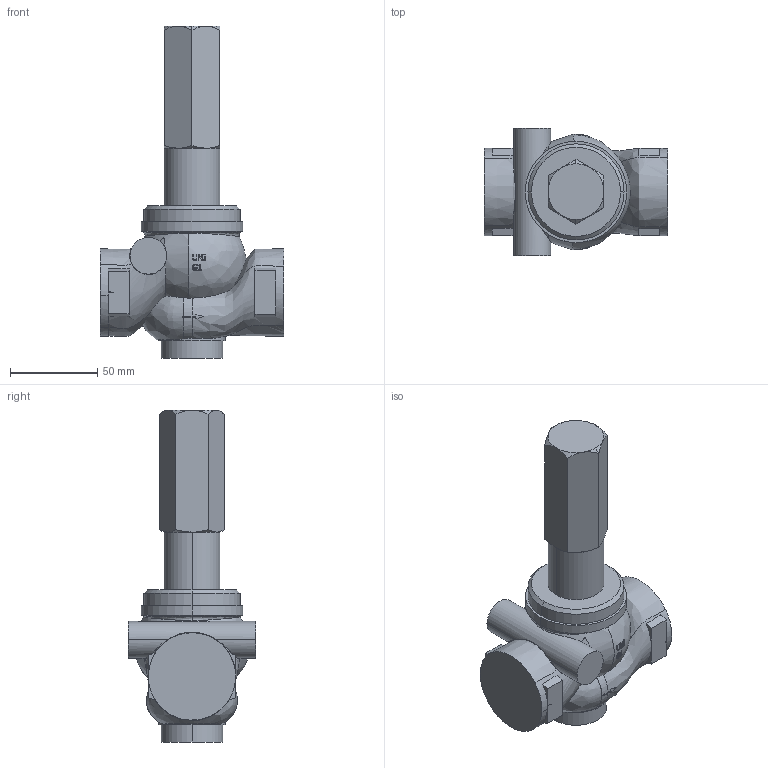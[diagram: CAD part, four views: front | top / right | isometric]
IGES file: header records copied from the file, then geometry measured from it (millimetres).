
Global section: file name: No Iges File Name specified; native system: AutoDesk Inventor R12.0; preprocessor: AutoDesk Inventor Iges Exporter R12.0; date: 20100519.120010; units: millimetre
Bounding box: 105 x 73 x 190 mm (x, y, z)
Volume: 405773.5 mm3; surface area: 43164.4 mm2
Topology: 1 solids, 1 shells, 379 faces, 1066 edges, 708 vertices
Faces by surface type: plane 189, bspline 158, cylinder 18, cone 8, revolution 4, torus 2
